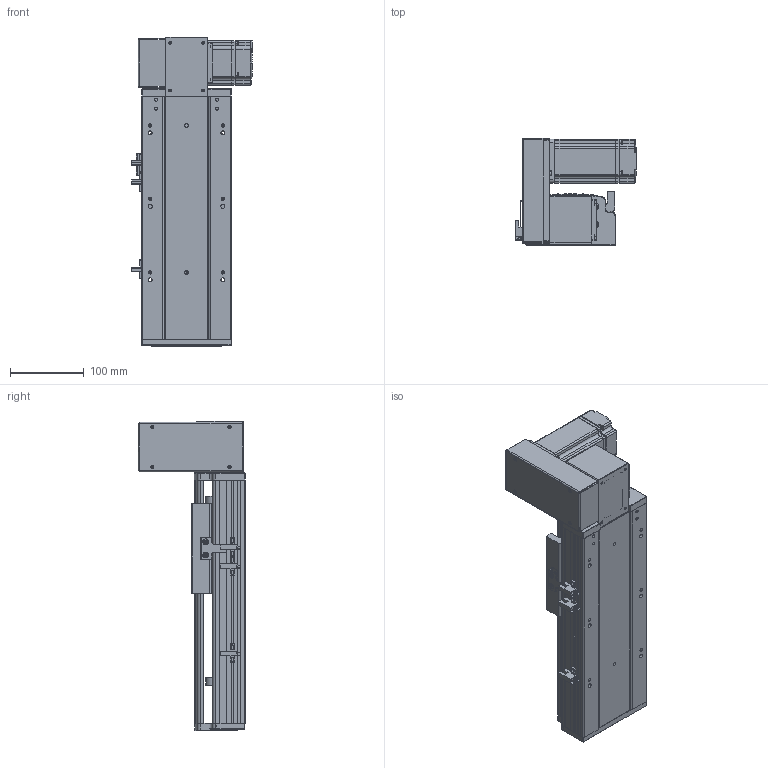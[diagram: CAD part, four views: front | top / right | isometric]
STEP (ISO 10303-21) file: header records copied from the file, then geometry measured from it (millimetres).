
FILE_DESCRIPTION (( 'STEP AP203' ), '1' );
FILE_NAME ('RY120-T-300-UL.SLDASM_100.step', '2021-03-01T05:34:51', ( '盈信电脑' ), ( '东莞市道滘镇水果街19号' ), 'SwSTEP 2.0', 'SolidWorks 2012', '' );
FILE_SCHEMA (( 'CONFIG_CONTROL_DESIGN' ));
Products named in the file (18): RY120-T翋肮祭謫裔啣; RY120-T-300-UL.SLDASM_100; RY120-T萇儂欶; RY120-T蹟翐M4; 侂狟400W侜督萇儂; RY120-T主同步轮轴承压盖; 滅袉蝶18-10; RY120-T翋肮祭盓傅釱; 15; RY120-T萇儂假蚾啣; RY120-T肮祭湍揤踡輸2; RY120綴裔啣; RY120-T肮祭湍揤踡輸1; RY120外置感应片(140共用）; 覜茼ん672; RY120-T-300-UL倰第奻裔啣_100; RY120肮祭湍臏賑輸; RY120-T-300-UL倰第菁釱_100
Assembly tree (23 placements, depth 3):
  RY120-T-300-UL.SLDASM_100
    RY120-T-300-UL倰第菁釱_100
    RY120-T-300-UL倰第奻裔啣_100
    RY120肮祭湍臏賑輸
    RY120綴裔啣
    覜茼ん672  x3
    RY120外置感应片(140共用）
    RY120-T肮祭湍揤踡輸1
    RY120-T肮祭湍揤踡輸2
    RY120-T翋肮祭盓傅釱
    RY120-T萇儂假蚾啣
    侂狟400W侜督萇儂
      15
    RY120-T主同步轮轴承压盖
    滅袉蝶18-10  x2
    RY120-T萇儂欶
    RY120-T蹟翐M4  x4
    RY120-T翋肮祭謫裔啣
Bounding box: 164.2 x 146 x 421 mm (x, y, z)
Volume: 1648002.9 mm3; surface area: 569300.8 mm2
Topology: 23 solids, 23 shells, 2524 faces, 6832 edges, 4408 vertices
Faces by surface type: plane 1372, cylinder 882, cone 181, bspline 89
Entity records: 78858 total; most frequent: CARTESIAN_POINT 19096, ORIENTED_EDGE 12208, DIRECTION 11658, EDGE_CURVE 6104, VERTEX_POINT 3995, VECTOR 3992, LINE 3992, AXIS2_PLACEMENT_3D 3833
